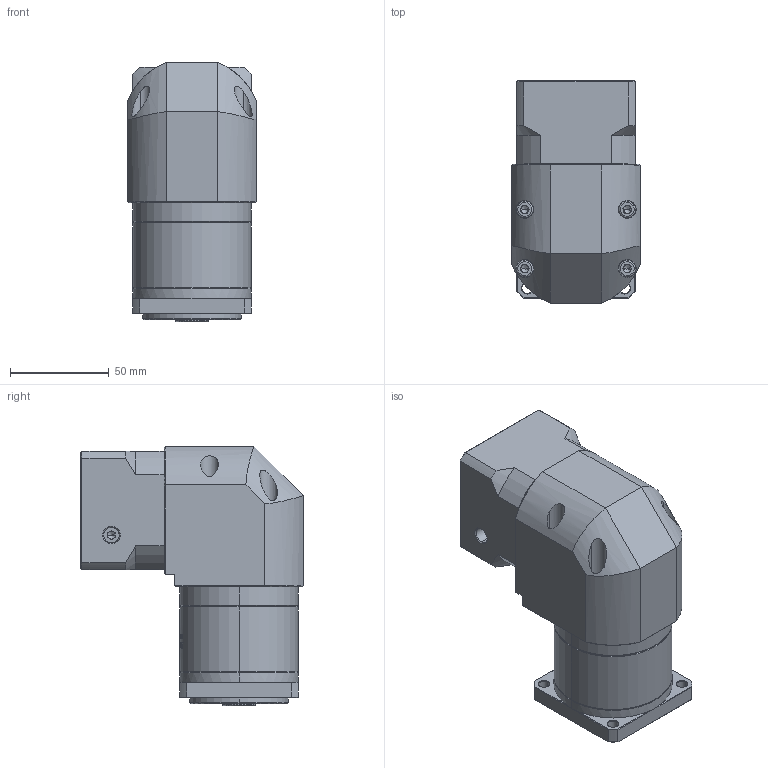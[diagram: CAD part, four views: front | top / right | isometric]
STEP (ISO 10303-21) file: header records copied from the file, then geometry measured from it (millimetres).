
FILE_DESCRIPTION (( 'STEP AP214' ), '1' );
FILE_NAME ('ZFR060-K10-L1-P2-11-50-70-M4.step', '2023-08-17T03:36:52', ( '' ), ( '' ), 'SwSTEP 2.0', 'SolidWorks 2016', '' );
FILE_SCHEMA (( 'AUTOMOTIVE_DESIGN' ));
Length unit declared in the file: millimetre
Products named in the file (1): ZFR060-K10-L1-P2-11-50-70-M4
Bounding box: 65 x 112.7 x 131.5 mm (x, y, z)
Volume: 530538.1 mm3; surface area: 77185.2 mm2
Topology: 5 solids, 6 shells, 1849 faces, 4959 edges, 3206 vertices
Faces by surface type: plane 840, cylinder 356, bspline 347, cone 282, torus 24
Entity records: 97836 total; most frequent: CARTESIAN_POINT 35077, ORIENTED_EDGE 9878, DIRECTION 7442, EDGE_CURVE 4939, VERTEX_POINT 3206, VECTOR 2534, LINE 2534, AXIS2_PLACEMENT_3D 2454
